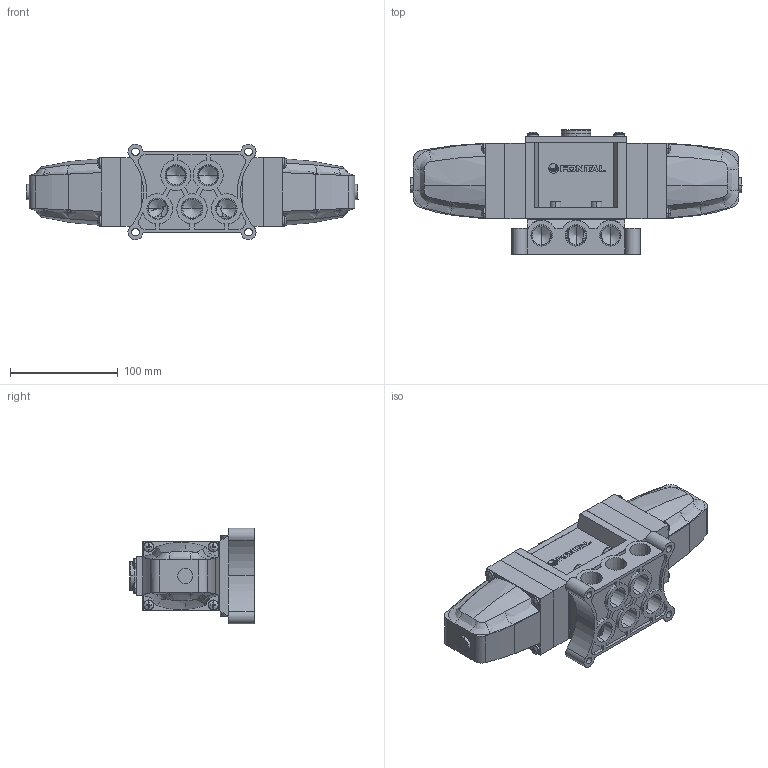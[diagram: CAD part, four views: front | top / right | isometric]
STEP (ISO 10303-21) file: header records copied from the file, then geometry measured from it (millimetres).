
FILE_DESCRIPTION (( 'STEP AP203' ), '1' );
FILE_NAME ('AD(DE)3410-04-##.STEP', '2016-03-09T02:54:43', ( 'Sam Lin' ), ( '' ), 'SwSTEP 2.0', 'SolidWorks 2013', '' );
FILE_SCHEMA (( 'CONFIG_CONTROL_DESIGN' ));
Length unit declared in the file: metre
Products named in the file (11): AS2410-4; ISO 4762 M6 x 16; AS2410-5; AS2410-7; AS2410-1; AS2410-6=04; A10-MARK; AD(DE)3410-04-##; AS2310-3; ISO 7045 - M5 x 16; AS2410-3
Assembly tree (26 placements, depth 2):
  AD(DE)3410-04-##
    AS2410-1
    A10-MARK
    AS2310-3  x2
    ISO 7045 - M5 x 16  x12
    AS2410-3
    AS2410-4
    ISO 4762 M6 x 16  x4
    AS2410-5
    AS2410-7  x2
    AS2410-6=04
Bounding box: 308 x 115.6 x 88.6 mm (x, y, z)
Volume: 1211787.5 mm3; surface area: 194302.2 mm2
Topology: 32 solids, 32 shells, 947 faces, 2424 edges, 1525 vertices
Faces by surface type: plane 473, cylinder 217, bspline 130, cone 127
Entity records: 17868 total; most frequent: CARTESIAN_POINT 5412, ORIENTED_EDGE 2306, DIRECTION 2206, EDGE_CURVE 1153, AXIS2_PLACEMENT_3D 802, VERTEX_POINT 757, VECTOR 602, LINE 602
